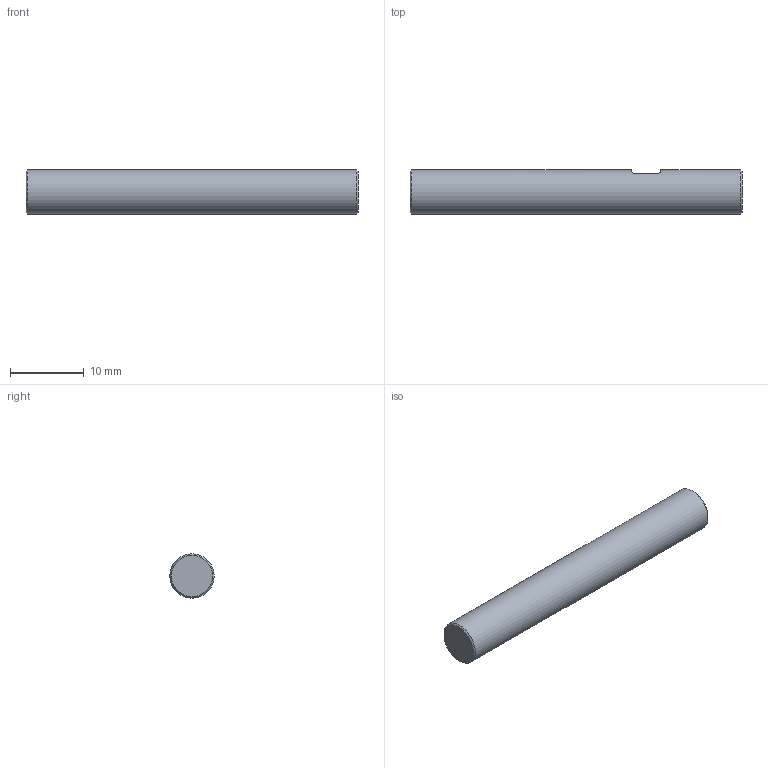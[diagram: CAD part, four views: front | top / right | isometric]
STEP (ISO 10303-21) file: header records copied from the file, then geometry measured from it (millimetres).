
FILE_DESCRIPTION(/* description */ (''),/* implementation_level */ '2;1');
FILE_NAME(/* name */ 'UF S-L045-D06-C06.stp',/* time_stamp */ '2026-03-04T21:42:42+02:00',/* author */ ('harel'),/* organization */ (''),/* preprocessor_version */ 'ST-DEVELOPER v20',/* originating_system */ 'Autodesk Inventor 2025',/* authorisation */ '');
FILE_SCHEMA (('AUTOMOTIVE_DESIGN { 1 0 10303 214 3 1 1 }'));
Length unit declared in the file: millimetre
Products named in the file (1): UF S-L045-D06-C06
Bounding box: 45 x 6 x 6 mm (x, y, z)
Volume: 1267.3 mm3; surface area: 900.8 mm2
Topology: 1 solids, 1 shells, 10 faces, 19 edges, 12 vertices
Faces by surface type: plane 5, cylinder 3, cone 2
Full cylindrical faces by diameter (mm): 6 x1
Entity records: 332 total; most frequent: CARTESIAN_POINT 86, DIRECTION 43, ORIENTED_EDGE 38, EDGE_CURVE 19, AXIS2_PLACEMENT_3D 17, VERTEX_POINT 12, EDGE_LOOP 11, FACE_OUTER_BOUND 10
